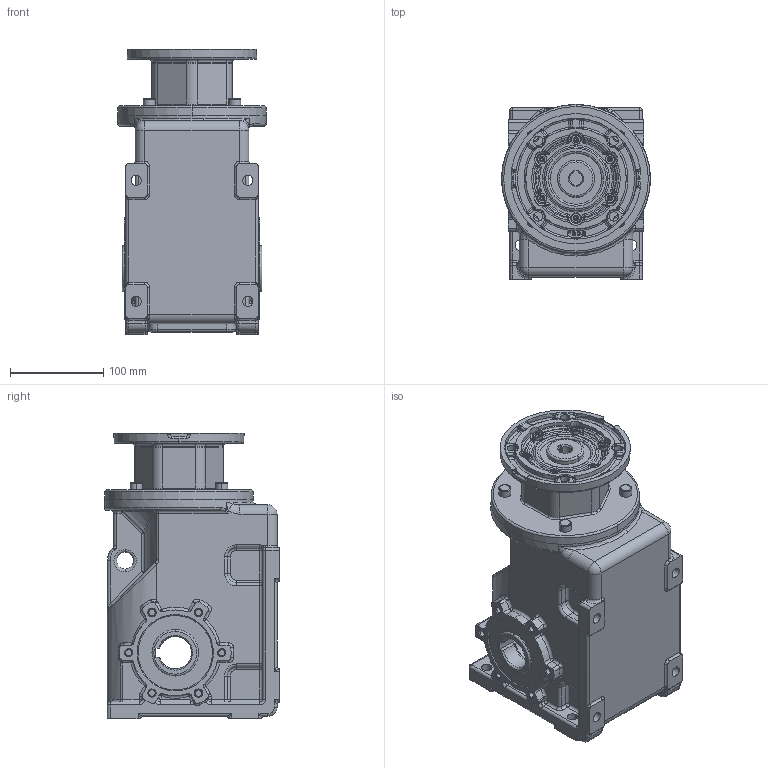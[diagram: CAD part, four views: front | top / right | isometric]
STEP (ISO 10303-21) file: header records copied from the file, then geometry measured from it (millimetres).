
FILE_DESCRIPTION (( 'STEP AP214' ), '1' );
FILE_NAME ('ktm33143-hohlwelle-f115-ap71.STEP', '2009-07-22T06:32:31', ( '' ), ( '' ), 'SwSTEP 2.0', 'SolidWorks 2003240', '' );
FILE_SCHEMA (( 'AUTOMOTIVE_DESIGN' ));
Length unit declared in the file: millimetre
Products named in the file (4): ktm33143-hohlwelle-f115-ap71; D6912_Šroub DIN 6912 - M6x20; pøíruba115 d72 MRT80a_Výchozí; skøíò KTM33_Skøíò KTM33-Hohlwelle-AP71
Assembly tree (8 placements, depth 2):
  ktm33143-hohlwelle-f115-ap71
    D6912_Šroub DIN 6912 - M6x20  x6
    skøíò KTM33_Skøíò KTM33-Hohlwelle-AP71
    pøíruba115 d72 MRT80a_Výchozí
Bounding box: 160 x 188 x 307 mm (x, y, z)
Volume: 5316222.1 mm3; surface area: 317947.7 mm2
Topology: 8 solids, 8 shells, 1546 faces, 3603 edges, 2024 vertices
Faces by surface type: cylinder 516, torus 327, plane 309, bspline 185, cone 125, sphere 84
Entity records: 123463 total; most frequent: CARTESIAN_POINT 91905, DIRECTION 6807, ORIENTED_EDGE 6314, EDGE_CURVE 3157, AXIS2_PLACEMENT_3D 2913, VERTEX_POINT 1847, CIRCLE 1726, EDGE_LOOP 1448
